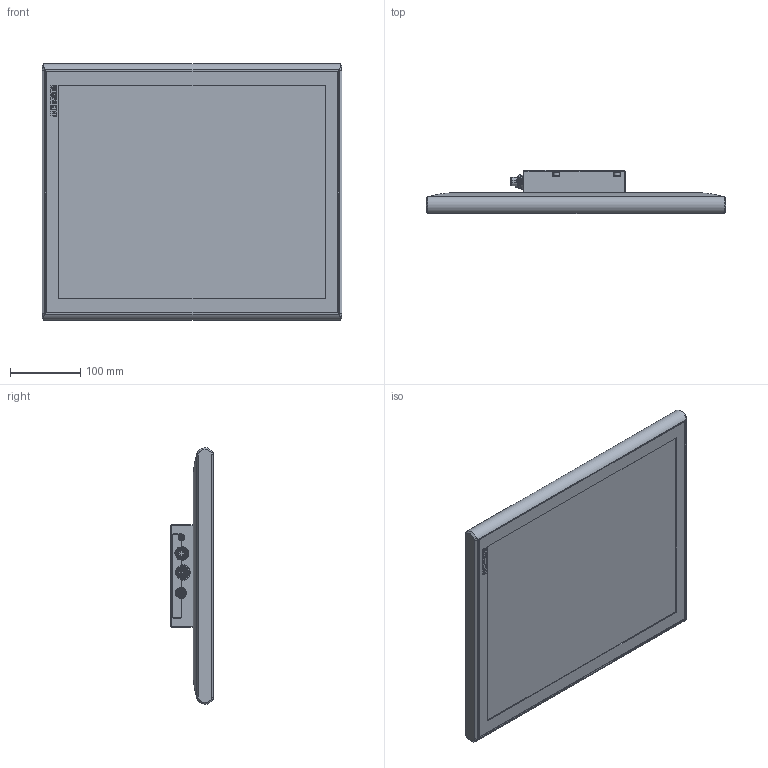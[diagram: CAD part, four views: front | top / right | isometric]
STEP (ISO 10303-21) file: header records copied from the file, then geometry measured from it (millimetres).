
FILE_DESCRIPTION(/* description */ (''),/* implementation_level */ '2;1');
FILE_NAME(/* name */ 'X:\0-inventor\0-3d-Teile\PC-Compo\solids\CP3xxx\0-Ausgabe\CP3919-M575.stp',/* time_stamp */ '2015-04-14T11:59:50+02:00',/* author */ ('ChristianKreuzer'),/* organization */ ('Design-AG'),/* preprocessor_version */ 'ST-DEVELOPER v15.6',/* originating_system */ 'Autodesk Inventor 2015',/* authorisation */ '');
FILE_SCHEMA (('AUTOMOTIVE_DESIGN { 1 0 10303 214 3 1 1 }'));
Length unit declared in the file: millimetre
Products named in the file (1): CP3919-M575-Step
Bounding box: 425.3 x 61 x 363.89 mm (x, y, z)
Volume: 4766048.2 mm3; surface area: 369162.7 mm2
Topology: 2 solids, 3 shells, 657 faces, 1608 edges, 1008 vertices
Faces by surface type: cylinder 265, plane 247, bspline 62, cone 39, sphere 31, torus 13
Full cylindrical faces by diameter (mm): 0.5 x8, 1 x23, 4 x2, 4.3 x1, 4.917 x4, 5.9 x1, 6 x1, 6.6 x1, 7.9 x1, 8 x1, 8.5 x4, 8.8 x4, 9 x3, 11 x2, 12 x1, 16.01 x1, 20 x1
Entity records: 21046 total; most frequent: CARTESIAN_POINT 6004, DIRECTION 2927, ORIENTED_EDGE 2856, EDGE_CURVE 1428, AXIS2_PLACEMENT_3D 1102, VERTEX_POINT 941, EDGE_LOOP 825, LINE 723
